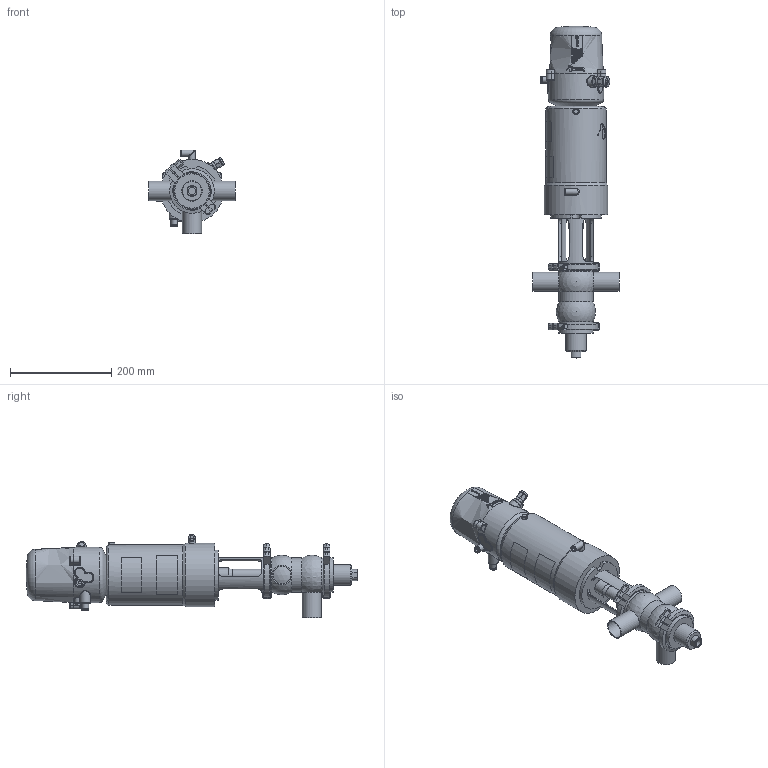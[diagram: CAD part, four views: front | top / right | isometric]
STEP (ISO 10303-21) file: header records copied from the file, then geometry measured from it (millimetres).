
FILE_DESCRIPTION (( 'STEP AP214' ), '1' );
FILE_NAME ('INNOVA S AB-90 W OD 1½ & C-TOP S_10.251.16.0011.STEP', '2024-08-19T11:02:03', ( '' ), ( '' ), 'SwSTEP 2.0', 'SolidWorks 2023', '' );
FILE_SCHEMA (( 'AUTOMOTIVE_DESIGN' ));
Length unit declared in the file: millimetre
Products named in the file (7): 10.251.15.0003_OD 1½"; 10.250.15.0002_Type S T1; INNOVA S AB-90 W OD 1½ & C-TOP S_10.251.16.0011; 10.240.15.0001_DN 040; 10.251.15.0002_DN 1½"; 10.251.15.0001_OD 1½"; 10.426.15.0001_C-TOP S - 1 EV
Assembly tree (7 placements, depth 2):
  INNOVA S AB-90 W OD 1½ & C-TOP S_10.251.16.0011
    10.251.15.0001_OD 1½"
    10.250.15.0002_Type S T1
    10.426.15.0001_C-TOP S - 1 EV
    10.251.15.0003_OD 1½"
    10.240.15.0001_DN 040  x2
    10.251.15.0002_DN 1½"
Bounding box: 170 x 656.2 x 166 mm (x, y, z)
Volume: 4717378.3 mm3; surface area: 358769.9 mm2
Topology: 7 solids, 7 shells, 1190 faces, 2872 edges, 1908 vertices
Faces by surface type: plane 414, cylinder 372, cone 202, bspline 160, torus 33, sphere 9
Full cylindrical faces by diameter (mm): 0.371 x17, 0.512 x16, 0.658 x16, 0.795 x16, 0.94 x15, 1.098 x15, 1.241 x13, 1.382 x13, 1.523 x11, 1.669 x10, 2.201 x1, 4.2 x2, 5 x1, 5.5 x2, 6 x3, 6.15 x1, 8 x5, 8.5 x1, 10 x1, 10.5 x2, 11 x2, 12.5 x6, 13 x2, 13.5 x2, 14 x1, 17 x3, 20 x2, 22 x2, 23 x1, 28 x1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
Entity records: 58306 total; most frequent: CARTESIAN_POINT 27443, ORIENTED_EDGE 4600, DIRECTION 3715, EDGE_CURVE 2300, VERTEX_POINT 1628, EDGE_LOOP 1586, AXIS2_PLACEMENT_3D 1515, FACE_OUTER_BOUND 1346
